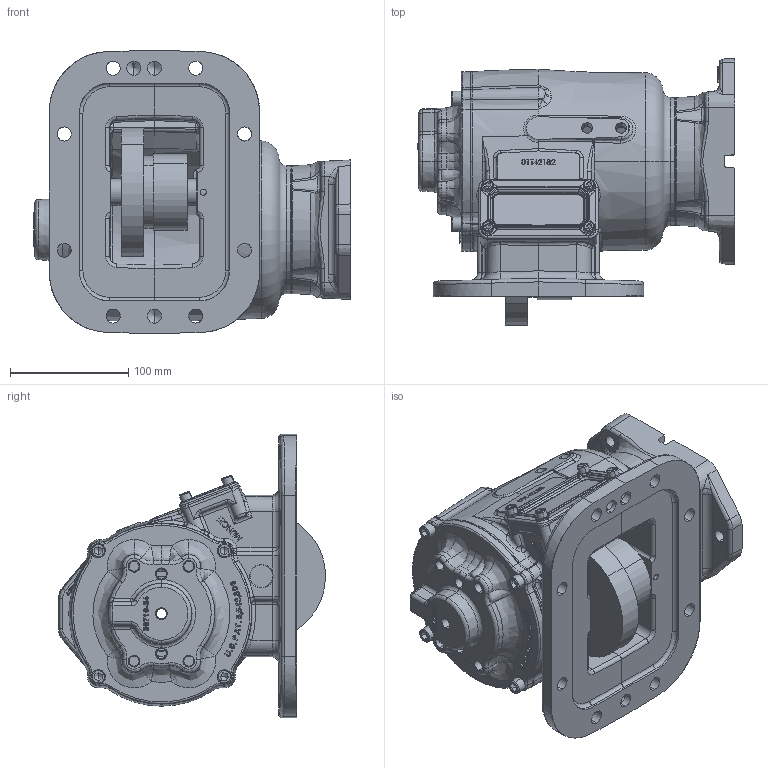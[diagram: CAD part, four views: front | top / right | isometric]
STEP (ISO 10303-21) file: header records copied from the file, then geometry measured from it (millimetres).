
FILE_DESCRIPTION (( 'STEP AP203' ), '1' );
FILE_NAME ('CS8S-XXXXX-X1PX.STEP', '2012-06-01T18:33:22', ( '' ), ( '' ), 'SwSTEP 2.0', 'SolidWorks 2012', '' );
FILE_SCHEMA (( 'CONFIG_CONTROL_DESIGN' ));
Products named in the file (3): CS8S-XXXXX-X1PX; 14T37779; CS8S-XXXXX-X1XX
Assembly tree (2 placements, depth 2):
  CS8S-XXXXX-X1PX
    CS8S-XXXXX-X1XX
    14T37779
Bounding box: 268.87 x 225.87 x 239.61 mm (x, y, z)
Volume: 2002730.3 mm3; surface area: 470510.1 mm2
Topology: 4 solids, 16 shells, 2456 faces, 6269 edges, 3887 vertices
Faces by surface type: bspline 930, plane 672, cylinder 460, cone 316, torus 72, sphere 6
Entity records: 124848 total; most frequent: CARTESIAN_POINT 71955, ORIENTED_EDGE 12362, DIRECTION 8613, EDGE_CURVE 6181, VERTEX_POINT 3887, AXIS2_PLACEMENT_3D 3020, EDGE_LOOP 2708, LINE 2573
